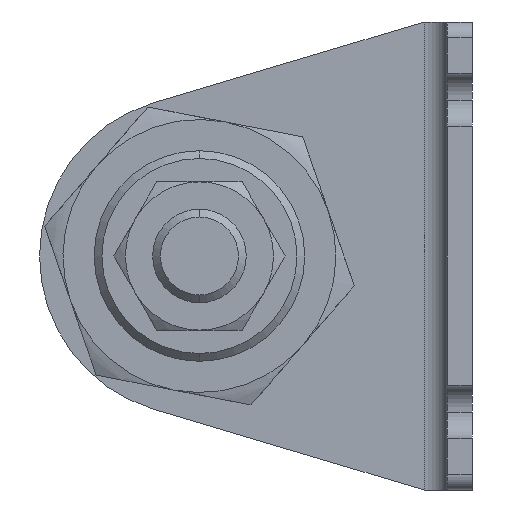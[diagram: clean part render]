
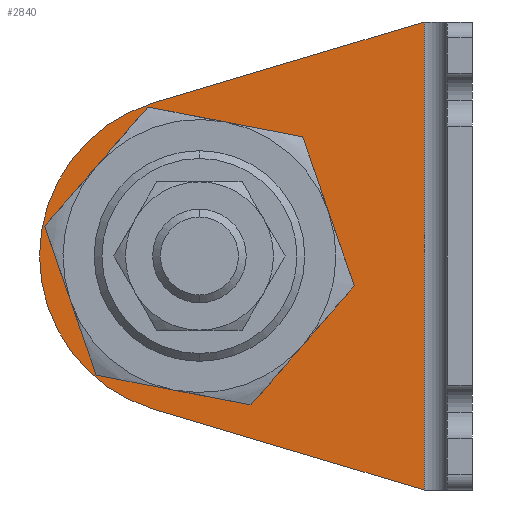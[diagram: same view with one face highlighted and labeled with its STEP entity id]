
A CAD part, left-side view. The second image highlights one B-rep face of the part: STEP entity #2840.
In plain terms, the highlighted planar face has unit normal (-1, 0, 0) as drawn and (1, 0, 0) by its records, which use the part's own axes.
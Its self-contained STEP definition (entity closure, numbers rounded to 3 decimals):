
#55 = VERTEX_POINT ( 'NONE', #2799 ) ;
#151 = CARTESIAN_POINT ( 'NONE',  ( 3.2, 19.903, -4.094 ) ) ;
#331 = DIRECTION ( 'NONE',  ( 0., 1., 0. ) ) ;
#360 = DIRECTION ( 'NONE',  ( 0., 0., -1. ) ) ;
#427 = VERTEX_POINT ( 'NONE', #3735 ) ;
#473 = VERTEX_POINT ( 'NONE', #2878 ) ;
#483 = DIRECTION ( 'NONE',  ( 0., 0.958, -0.286 ) ) ;
#508 = CARTESIAN_POINT ( 'NONE',  ( 3.2, 6.2, -60. ) ) ;
#640 = CARTESIAN_POINT ( 'NONE',  ( 3.2, 6.2, 0. ) ) ;
#686 = CARTESIAN_POINT ( 'NONE',  ( 3.2, 3.2, -60. ) ) ;
#690 = CARTESIAN_POINT ( 'NONE',  ( 3.2, 6.2, -60. ) ) ;
#708 = AXIS2_PLACEMENT_3D ( 'NONE', #3868, #1876, #4188 ) ;
#733 = EDGE_LOOP ( 'NONE', ( #2667, #4135, #1546, #2787, #2530 ) ) ;
#748 = VECTOR ( 'NONE', #3092, 1000. ) ;
#753 = CARTESIAN_POINT ( 'NONE',  ( 3.2, 3.446, -60.823 ) ) ;
#809 = CARTESIAN_POINT ( 'NONE',  ( 3.2, 40.868, -10.358 ) ) ;
#908 = EDGE_CURVE ( 'NONE', #2421, #3041, #1335, .T. ) ;
#967 = CIRCLE ( 'NONE', #2174, 13.5 ) ;
#1084 = EDGE_CURVE ( 'NONE', #2421, #3523, #2340, .T. ) ;
#1171 = EDGE_LOOP ( 'NONE', ( #2896, #2622 ) ) ;
#1194 = VECTOR ( 'NONE', #483, 1000. ) ;
#1266 = CARTESIAN_POINT ( 'NONE',  ( 3.2, 35., -30. ) ) ;
#1335 = LINE ( 'NONE', #690, #3912 ) ;
#1515 = AXIS2_PLACEMENT_3D ( 'NONE', #1266, #3263, #3282 ) ;
#1546 = ORIENTED_EDGE ( 'NONE', *, *, #3569, .T. ) ;
#1670 = DIRECTION ( 'NONE',  ( 1., 0., 0. ) ) ;
#1689 = DIRECTION ( 'NONE',  ( 0., 1., 0. ) ) ;
#1876 = DIRECTION ( 'NONE',  ( 1., 0., 0. ) ) ;
#1947 = AXIS2_PLACEMENT_3D ( 'NONE', #3697, #3395, #1689 ) ;
#2011 = CARTESIAN_POINT ( 'NONE',  ( 3.2, 55.5, -30. ) ) ;
#2124 = FACE_OUTER_BOUND ( 'NONE', #733, .T. ) ;
#2148 = EDGE_CURVE ( 'NONE', #473, #55, #2804, .T. ) ;
#2174 = AXIS2_PLACEMENT_3D ( 'NONE', #3024, #2344, #331 ) ;
#2340 = LINE ( 'NONE', #151, #1194 ) ;
#2344 = DIRECTION ( 'NONE',  ( 1., 0., 0. ) ) ;
#2421 = VERTEX_POINT ( 'NONE', #640 ) ;
#2530 = ORIENTED_EDGE ( 'NONE', *, *, #908, .T. ) ;
#2622 = ORIENTED_EDGE ( 'NONE', *, *, #3348, .F. ) ;
#2640 = LINE ( 'NONE', #753, #748 ) ;
#2667 = ORIENTED_EDGE ( 'NONE', *, *, #2711, .T. ) ;
#2690 = DIRECTION ( 'NONE',  ( 0., 1., 0. ) ) ;
#2711 = EDGE_CURVE ( 'NONE', #3041, #427, #2640, .T. ) ;
#2787 = ORIENTED_EDGE ( 'NONE', *, *, #1084, .F. ) ;
#2799 = CARTESIAN_POINT ( 'NONE',  ( 3.2, 21.5, -30. ) ) ;
#2801 = CIRCLE ( 'NONE', #708, 20.5 ) ;
#2804 = CIRCLE ( 'NONE', #1515, 13.5 ) ;
#2840 = ADVANCED_FACE ( 'NONE', ( #3900, #2124 ), #3814, .T. ) ;
#2878 = CARTESIAN_POINT ( 'NONE',  ( 3.2, 48.5, -30. ) ) ;
#2896 = ORIENTED_EDGE ( 'NONE', *, *, #2148, .F. ) ;
#2914 = AXIS2_PLACEMENT_3D ( 'NONE', #686, #1670, #2690 ) ;
#3024 = CARTESIAN_POINT ( 'NONE',  ( 3.2, 35., -30. ) ) ;
#3041 = VERTEX_POINT ( 'NONE', #508 ) ;
#3092 = DIRECTION ( 'NONE',  ( 0., 0.958, 0.286 ) ) ;
#3179 = CIRCLE ( 'NONE', #1947, 20.5 ) ;
#3263 = DIRECTION ( 'NONE',  ( 1., 0., 0. ) ) ;
#3282 = DIRECTION ( 'NONE',  ( 0., 1., 0. ) ) ;
#3333 = EDGE_CURVE ( 'NONE', #427, #3835, #3179, .T. ) ;
#3348 = EDGE_CURVE ( 'NONE', #55, #473, #967, .T. ) ;
#3395 = DIRECTION ( 'NONE',  ( 1., 0., 0. ) ) ;
#3523 = VERTEX_POINT ( 'NONE', #809 ) ;
#3569 = EDGE_CURVE ( 'NONE', #3835, #3523, #2801, .T. ) ;
#3697 = CARTESIAN_POINT ( 'NONE',  ( 3.2, 35., -30. ) ) ;
#3735 = CARTESIAN_POINT ( 'NONE',  ( 3.2, 40.868, -49.642 ) ) ;
#3814 = PLANE ( 'NONE',  #2914 ) ;
#3835 = VERTEX_POINT ( 'NONE', #2011 ) ;
#3868 = CARTESIAN_POINT ( 'NONE',  ( 3.2, 35., -30. ) ) ;
#3900 = FACE_BOUND ( 'NONE', #1171, .T. ) ;
#3912 = VECTOR ( 'NONE', #360, 1000. ) ;
#4135 = ORIENTED_EDGE ( 'NONE', *, *, #3333, .T. ) ;
#4188 = DIRECTION ( 'NONE',  ( 0., 1., 0. ) ) ;
